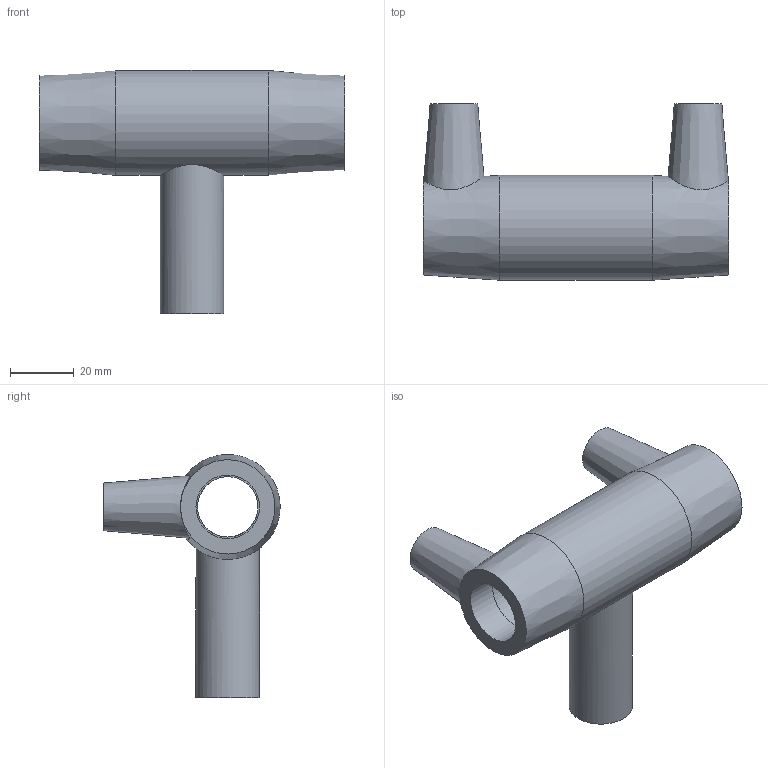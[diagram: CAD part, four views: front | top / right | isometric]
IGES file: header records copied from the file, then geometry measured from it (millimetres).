
Global section: file name: 490404020.ipt; native system: Autodesk Inventor 2015; preprocessor: unknown; author: KIM; date: 20171106.093607; units: millimetre
Bounding box: 96 x 55.5 x 76.5 mm (x, y, z)
Volume: 62387.2 mm3; surface area: 24623.8 mm2
Topology: 1 solids, 1 shells, 33 faces, 74 edges, 52 vertices
Faces by surface type: plane 13, revolution 12, cylinder 4, cone 4
Full cylindrical faces by diameter (mm): 4.8 x2, 20 x1, 33 x1
